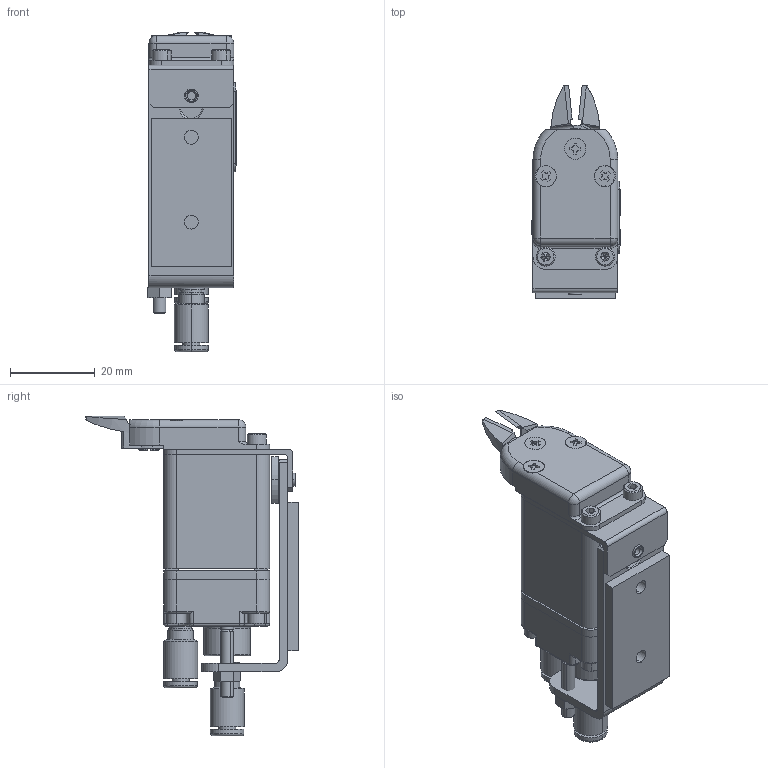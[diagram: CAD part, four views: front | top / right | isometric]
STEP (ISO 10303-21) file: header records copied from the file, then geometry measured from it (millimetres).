
FILE_DESCRIPTION (( 'STEP AP214' ), '1' );
FILE_NAME ('131628.STEP', '2024-05-06T02:57:11', ( '' ), ( '' ), 'SwSTEP 2.0', 'SolidWorks 2021', '' );
FILE_SCHEMA (( 'AUTOMOTIVE_DESIGN' ));
Length unit declared in the file: millimetre
Products named in the file (1): 131628
Bounding box: 20.8 x 50.21 x 75.4 mm (x, y, z)
Surface area: 15475 mm2 (no closed solid volume)
Topology: 0 solids, 41 shells, 654 faces, 3094 edges, 2368 vertices
Faces by surface type: plane 352, cylinder 175, cone 48, torus 42, bspline 35, sphere 2
Entity records: 39491 total; most frequent: CARTESIAN_POINT 8174, DIRECTION 4759, ORIENTED_EDGE 4461, EDGE_CURVE 3076, VERTEX_POINT 2368, LINE 2295, VECTOR 2295, AXIS2_PLACEMENT_3D 1232
